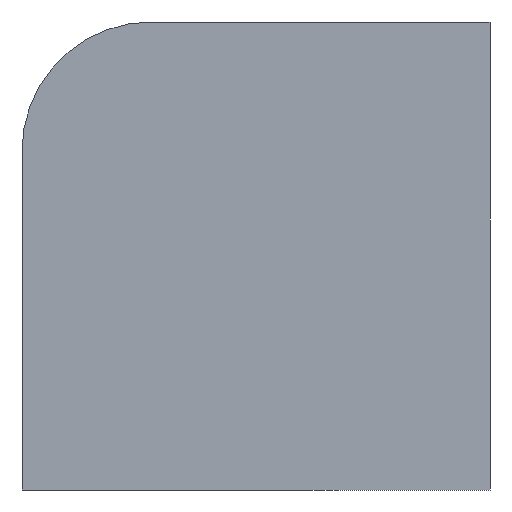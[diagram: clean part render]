
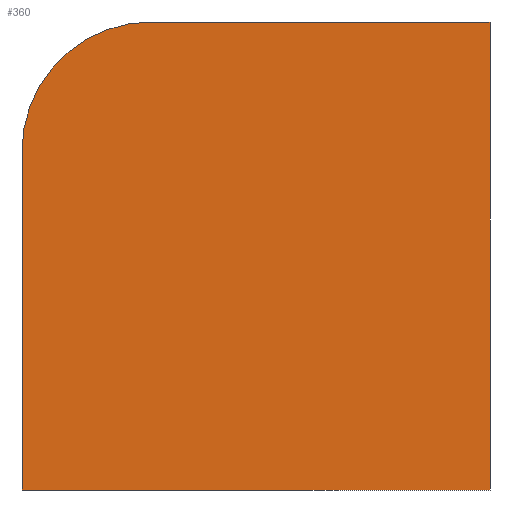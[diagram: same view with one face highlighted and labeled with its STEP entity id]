
A CAD part, left-side view. The second image highlights one B-rep face of the part: STEP entity #360.
In plain terms, the highlighted planar face has unit normal (-1, 0, 0).
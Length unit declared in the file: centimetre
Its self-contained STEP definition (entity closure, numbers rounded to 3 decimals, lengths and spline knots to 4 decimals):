
#43 = CARTESIAN_POINT ( 'NONE',  ( 0., 0., 0. ) ) ;
#59 = VERTEX_POINT ( 'NONE', #66 ) ;
#65 = DIRECTION ( 'NONE',  ( 1., 0., 0. ) ) ;
#66 = CARTESIAN_POINT ( 'NONE',  ( 0., 1000., 0. ) ) ;
#70 = ORIENTED_EDGE ( 'NONE', *, *, #207, .T. ) ;
#72 = LINE ( 'NONE', #341, #190 ) ;
#94 = VERTEX_POINT ( 'NONE', #295 ) ;
#134 = ORIENTED_EDGE ( 'NONE', *, *, #733, .F. ) ;
#171 = LINE ( 'NONE', #558, #449 ) ;
#180 = AXIS2_PLACEMENT_3D ( 'NONE', #266, #221, #377 ) ;
#186 = DIRECTION ( 'NONE',  ( 0., -1., 0. ) ) ;
#190 = VECTOR ( 'NONE', #186, 100. ) ;
#207 = EDGE_CURVE ( 'NONE', #232, #59, #405, .T. ) ;
#212 = EDGE_LOOP ( 'NONE', ( #412, #226, #70, #640, #134 ) ) ;
#216 = CIRCLE ( 'NONE', #180, 275.3791 ) ;
#221 = DIRECTION ( 'NONE',  ( -1., 0., 0. ) ) ;
#226 = ORIENTED_EDGE ( 'NONE', *, *, #657, .T. ) ;
#232 = VERTEX_POINT ( 'NONE', #317 ) ;
#243 = CARTESIAN_POINT ( 'NONE',  ( 0., 0., 1000. ) ) ;
#266 = CARTESIAN_POINT ( 'NONE',  ( 0., 724.6209, 724.6209 ) ) ;
#282 = DIRECTION ( 'NONE',  ( 0., 0., -1. ) ) ;
#295 = CARTESIAN_POINT ( 'NONE',  ( 0., 724.6209, 1000. ) ) ;
#314 = LINE ( 'NONE', #243, #435 ) ;
#317 = CARTESIAN_POINT ( 'NONE',  ( 0., 1000., 724.6209 ) ) ;
#341 = CARTESIAN_POINT ( 'NONE',  ( 0., 1000., 0. ) ) ;
#343 = PLANE ( 'NONE',  #660 ) ;
#346 = VERTEX_POINT ( 'NONE', #503 ) ;
#360 = ADVANCED_FACE ( 'NONE', ( #452 ), #343, .F. ) ;
#377 = DIRECTION ( 'NONE',  ( 0., 0., -1. ) ) ;
#385 = EDGE_CURVE ( 'NONE', #94, #346, #171, .T. ) ;
#405 = LINE ( 'NONE', #635, #719 ) ;
#412 = ORIENTED_EDGE ( 'NONE', *, *, #385, .F. ) ;
#420 = DIRECTION ( 'NONE',  ( 0., 0., -1. ) ) ;
#435 = VECTOR ( 'NONE', #420, 100. ) ;
#449 = VECTOR ( 'NONE', #652, 100. ) ;
#452 = FACE_OUTER_BOUND ( 'NONE', #212, .T. ) ;
#491 = EDGE_CURVE ( 'NONE', #59, #679, #72, .T. ) ;
#503 = CARTESIAN_POINT ( 'NONE',  ( 0., 0., 1000. ) ) ;
#547 = DIRECTION ( 'NONE',  ( 0., 0., -1. ) ) ;
#558 = CARTESIAN_POINT ( 'NONE',  ( 0., 1000., 1000. ) ) ;
#567 = CARTESIAN_POINT ( 'NONE',  ( 0., 1000., 1000. ) ) ;
#635 = CARTESIAN_POINT ( 'NONE',  ( 0., 1000., 1000. ) ) ;
#640 = ORIENTED_EDGE ( 'NONE', *, *, #491, .T. ) ;
#652 = DIRECTION ( 'NONE',  ( 0., -1., 0. ) ) ;
#657 = EDGE_CURVE ( 'NONE', #94, #232, #216, .T. ) ;
#660 = AXIS2_PLACEMENT_3D ( 'NONE', #567, #65, #282 ) ;
#679 = VERTEX_POINT ( 'NONE', #43 ) ;
#719 = VECTOR ( 'NONE', #547, 100. ) ;
#733 = EDGE_CURVE ( 'NONE', #346, #679, #314, .T. ) ;
